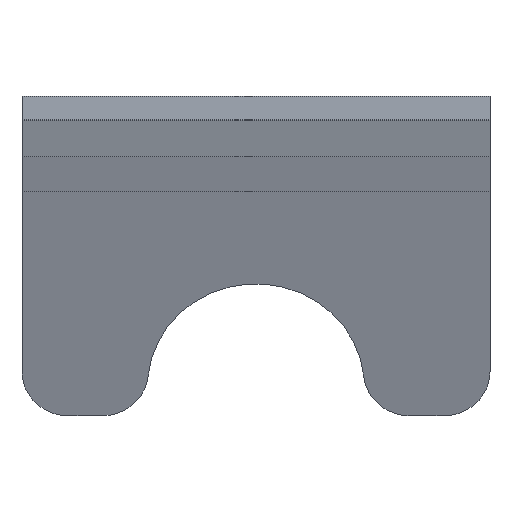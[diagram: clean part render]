
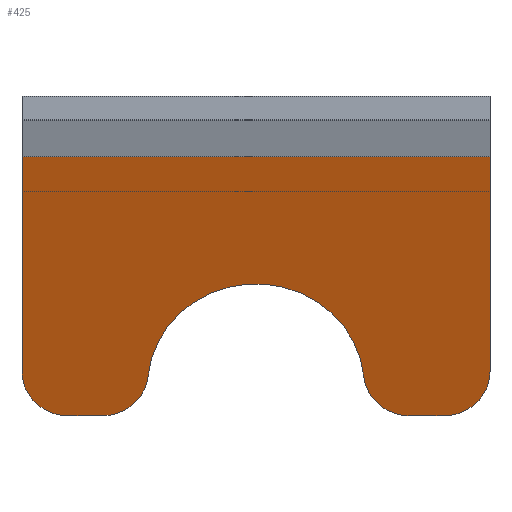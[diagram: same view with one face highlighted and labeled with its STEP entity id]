
A CAD part, front view. The second image highlights one B-rep face of the part: STEP entity #425.
In plain terms, the highlighted planar face has unit normal (0, -0.943, -0.334).
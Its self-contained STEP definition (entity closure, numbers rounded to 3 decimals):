
#18 = LINE ( 'NONE', #529, #692 ) ;
#42 = EDGE_CURVE ( 'NONE', #536, #800, #111, .T. ) ;
#43 = DIRECTION ( 'NONE',  ( 0., 0.334, -0.942 ) ) ;
#58 = VERTEX_POINT ( 'NONE', #723 ) ;
#62 = DIRECTION ( 'NONE',  ( 0., -0.942, -0.334 ) ) ;
#69 = AXIS2_PLACEMENT_3D ( 'NONE', #714, #339, #782 ) ;
#88 = CARTESIAN_POINT ( 'NONE',  ( 20., -5.59, -7.637 ) ) ;
#97 = ORIENTED_EDGE ( 'NONE', *, *, #168, .F. ) ;
#98 = LINE ( 'NONE', #609, #773 ) ;
#99 = AXIS2_PLACEMENT_3D ( 'NONE', #301, #745, #368 ) ;
#111 = LINE ( 'NONE', #356, #627 ) ;
#123 = VERTEX_POINT ( 'NONE', #796 ) ;
#141 = VERTEX_POINT ( 'NONE', #846 ) ;
#143 = CARTESIAN_POINT ( 'NONE',  ( 0., -8.848, 1.548 ) ) ;
#148 = DIRECTION ( 'NONE',  ( 0., -0.942, -0.334 ) ) ;
#158 = VERTEX_POINT ( 'NONE', #143 ) ;
#168 = EDGE_CURVE ( 'NONE', #58, #158, #98, .T. ) ;
#170 = VECTOR ( 'NONE', #216, 1000. ) ;
#180 = AXIS2_PLACEMENT_3D ( 'NONE', #660, #279, #725 ) ;
#200 = CARTESIAN_POINT ( 'NONE',  ( 20., -8.848, 1.548 ) ) ;
#216 = DIRECTION ( 'NONE',  ( -1., 0., 0. ) ) ;
#220 = ORIENTED_EDGE ( 'NONE', *, *, #222, .T. ) ;
#222 = EDGE_CURVE ( 'NONE', #721, #768, #238, .T. ) ;
#238 = CIRCLE ( 'NONE', #99, 2. ) ;
#265 = CIRCLE ( 'NONE', #480, 4.628 ) ;
#277 = AXIS2_PLACEMENT_3D ( 'NONE', #548, #148, #619 ) ;
#279 = DIRECTION ( 'NONE',  ( 0., -0.942, -0.334 ) ) ;
#284 = EDGE_CURVE ( 'NONE', #662, #158, #547, .T. ) ;
#290 = DIRECTION ( 'NONE',  ( 0., -0.334, 0.942 ) ) ;
#294 = EDGE_CURVE ( 'NONE', #123, #141, #524, .T. ) ;
#295 = ORIENTED_EDGE ( 'NONE', *, *, #688, .T. ) ;
#301 = CARTESIAN_POINT ( 'NONE',  ( 18., -5.59, -7.637 ) ) ;
#321 = VERTEX_POINT ( 'NONE', #474 ) ;
#339 = DIRECTION ( 'NONE',  ( 0., -0.942, -0.334 ) ) ;
#356 = CARTESIAN_POINT ( 'NONE',  ( 20., -4.922, -9.522 ) ) ;
#368 = DIRECTION ( 'NONE',  ( 0., 0.334, -0.942 ) ) ;
#394 = AXIS2_PLACEMENT_3D ( 'NONE', #469, #62, #528 ) ;
#403 = EDGE_CURVE ( 'NONE', #536, #321, #622, .T. ) ;
#425 = ADVANCED_FACE ( 'NONE', ( #777 ), #525, .T. ) ;
#448 = DIRECTION ( 'NONE',  ( 0., -0.942, -0.334 ) ) ;
#455 = ORIENTED_EDGE ( 'NONE', *, *, #403, .T. ) ;
#466 = EDGE_CURVE ( 'NONE', #123, #321, #265, .T. ) ;
#469 = CARTESIAN_POINT ( 'NONE',  ( 20., -8.848, 1.548 ) ) ;
#474 = CARTESIAN_POINT ( 'NONE',  ( 5.389, -5.525, -7.82 ) ) ;
#478 = DIRECTION ( 'NONE',  ( -1., 0., 0. ) ) ;
#480 = AXIS2_PLACEMENT_3D ( 'NONE', #831, #448, #43 ) ;
#496 = CIRCLE ( 'NONE', #277, 2. ) ;
#500 = ORIENTED_EDGE ( 'NONE', *, *, #284, .T. ) ;
#510 = ORIENTED_EDGE ( 'NONE', *, *, #670, .F. ) ;
#524 = CIRCLE ( 'NONE', #180, 2. ) ;
#525 = PLANE ( 'NONE',  #394 ) ;
#528 = DIRECTION ( 'NONE',  ( 0., 0.334, -0.942 ) ) ;
#529 = CARTESIAN_POINT ( 'NONE',  ( 20., -8.848, 1.548 ) ) ;
#536 = VERTEX_POINT ( 'NONE', #849 ) ;
#547 = LINE ( 'NONE', #200, #736 ) ;
#548 = CARTESIAN_POINT ( 'NONE',  ( 2., -5.59, -7.637 ) ) ;
#584 = EDGE_CURVE ( 'NONE', #768, #662, #18, .T. ) ;
#609 = CARTESIAN_POINT ( 'NONE',  ( 0., -8.848, 1.548 ) ) ;
#611 = CARTESIAN_POINT ( 'NONE',  ( 20., -8.848, 1.548 ) ) ;
#615 = CARTESIAN_POINT ( 'NONE',  ( 20., -4.922, -9.522 ) ) ;
#619 = DIRECTION ( 'NONE',  ( 0., 0.334, -0.942 ) ) ;
#622 = CIRCLE ( 'NONE', #69, 2. ) ;
#627 = VECTOR ( 'NONE', #478, 1000. ) ;
#659 = LINE ( 'NONE', #615, #170 ) ;
#660 = CARTESIAN_POINT ( 'NONE',  ( 16.592, -5.59, -7.637 ) ) ;
#662 = VERTEX_POINT ( 'NONE', #611 ) ;
#670 = EDGE_CURVE ( 'NONE', #721, #141, #659, .T. ) ;
#688 = EDGE_CURVE ( 'NONE', #58, #800, #496, .T. ) ;
#692 = VECTOR ( 'NONE', #787, 1000. ) ;
#714 = CARTESIAN_POINT ( 'NONE',  ( 3.398, -5.59, -7.637 ) ) ;
#721 = VERTEX_POINT ( 'NONE', #808 ) ;
#723 = CARTESIAN_POINT ( 'NONE',  ( 0., -5.59, -7.637 ) ) ;
#725 = DIRECTION ( 'NONE',  ( 0., 0.334, -0.942 ) ) ;
#733 = ORIENTED_EDGE ( 'NONE', *, *, #294, .T. ) ;
#735 = EDGE_LOOP ( 'NONE', ( #97, #295, #760, #455, #845, #733, #510, #220, #793, #500 ) ) ;
#736 = VECTOR ( 'NONE', #856, 1000. ) ;
#744 = CARTESIAN_POINT ( 'NONE',  ( 2., -4.922, -9.522 ) ) ;
#745 = DIRECTION ( 'NONE',  ( 0., -0.942, -0.334 ) ) ;
#760 = ORIENTED_EDGE ( 'NONE', *, *, #42, .F. ) ;
#768 = VERTEX_POINT ( 'NONE', #88 ) ;
#773 = VECTOR ( 'NONE', #290, 1000. ) ;
#777 = FACE_OUTER_BOUND ( 'NONE', #735, .T. ) ;
#782 = DIRECTION ( 'NONE',  ( 0., 0.334, -0.942 ) ) ;
#787 = DIRECTION ( 'NONE',  ( 0., -0.334, 0.942 ) ) ;
#793 = ORIENTED_EDGE ( 'NONE', *, *, #584, .T. ) ;
#796 = CARTESIAN_POINT ( 'NONE',  ( 14.601, -5.525, -7.82 ) ) ;
#800 = VERTEX_POINT ( 'NONE', #744 ) ;
#808 = CARTESIAN_POINT ( 'NONE',  ( 18., -4.922, -9.522 ) ) ;
#831 = CARTESIAN_POINT ( 'NONE',  ( 9.995, -5.375, -8.243 ) ) ;
#845 = ORIENTED_EDGE ( 'NONE', *, *, #466, .F. ) ;
#846 = CARTESIAN_POINT ( 'NONE',  ( 16.592, -4.922, -9.522 ) ) ;
#849 = CARTESIAN_POINT ( 'NONE',  ( 3.398, -4.922, -9.522 ) ) ;
#856 = DIRECTION ( 'NONE',  ( -1., 0., 0. ) ) ;
